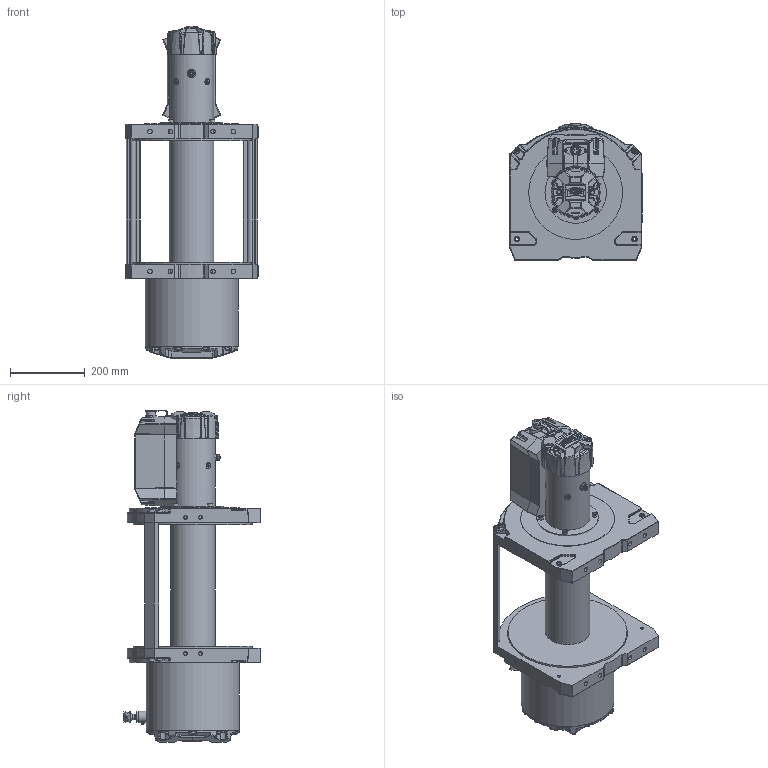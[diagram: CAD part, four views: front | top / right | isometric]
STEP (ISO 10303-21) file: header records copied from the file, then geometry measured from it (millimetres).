
FILE_DESCRIPTION(/* description */ (''),/* implementation_level */ '2;1');
FILE_NAME(/* name */ '42000 2_SIMPLIFIED.stp',/* time_stamp */ '2025-09-18T10:15:51+02:00',/* author */ ('Dell'),/* organization */ (''),/* preprocessor_version */ 'ST-DEVELOPER v20.1',/* originating_system */ 'Autodesk Inventor 2026',/* authorisation */ '');
FILE_SCHEMA (('AUTOMOTIVE_DESIGN { 1 0 10303 214 3 1 1 }'));
Products named in the file (1): 42000 2
Bounding box: 354.8 x 366.69 x 891.09 mm (x, y, z)
Volume: 28932239 mm3; surface area: 1880317.8 mm2
Topology: 11 solids, 18 shells, 3208 faces, 8320 edges, 5268 vertices
Faces by surface type: plane 1152, cylinder 1086, bspline 646, cone 129, torus 119, sphere 76
Full cylindrical faces by diameter (mm): 2 x1, 4 x1, 4.2 x2, 4.5 x2, 4.915 x10, 5 x3, 6 x2, 6.55 x7, 6.645 x8, 7 x7, 7.4 x1, 7.8 x1, 8 x4, 8.5 x26, 9 x4, 10 x35, 10.4 x1, 12 x8, 13 x10, 15 x9, 15.6 x1, 17 x4, 18 x1, 19 x1, 20 x1, 22 x1, 23.5 x1, 24 x1, 25 x1, 28 x1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
Entity records: 135149 total; most frequent: CARTESIAN_POINT 59932, ORIENTED_EDGE 16478, DIRECTION 15038, EDGE_CURVE 8239, AXIS2_PLACEMENT_3D 5650, VERTEX_POINT 5268, LINE 3738, VECTOR 3738
